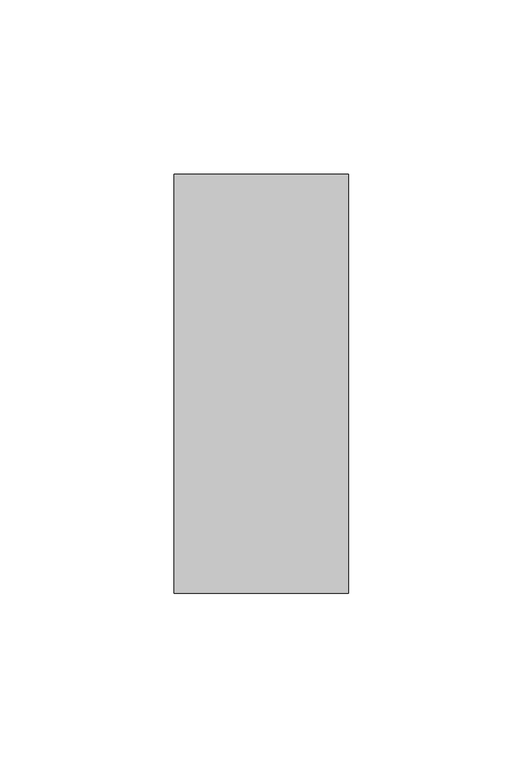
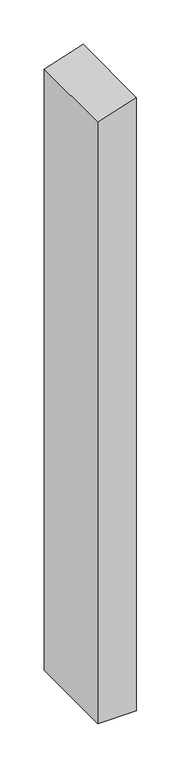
"""IFC4 building model written with IfcOpenShell, lengths in millimetres: member geometry, Прямоугольный импост : 50х120 мм."""

from ifc_helpers import new_model, si_unit, frame, origin, place, context, project, spatial, polyline, outline, extrude, source, transform, mapped, element, save


def member_5c1dcb9d(model_context):
    return source(origin(), model_context, "Body", "SweptSolid", [
        extrude(outline(polyline([(0.0, 0.0), (-16.2459848, -50.0), (-841.151337, -50.0), (-841.151337, 0.0), (0.0, 0.0)])), frame((0.0, -60.0, 0.0), z_axis=(0.0, 1.0, 0.0), x_axis=(0.0, 0.0, 1.0)), (0.0, 0.0, 1.0), 120.0),
    ])


if __name__ == "__main__":
    model = new_model("IFC4")
    model_context = context("Model", 3, world=origin())
    ifc_project = project(units=[si_unit("LENGTHUNIT", "METRE", prefix="MILLI")], contexts=[model_context])
    site = spatial("IfcSite", under=ifc_project)
    building = spatial("IfcBuilding", under=site)
    placement = place(None, origin())
    member_shape = member_5c1dcb9d(model_context)
    element("IfcMember", 1, ObjectType="Прямоугольный импост : 50х120 мм", at=placement, inside=building, context=model_context, shape_type="MappedRepresentation", body=[
        mapped(member_shape, transform((0.0, 0.0, 0.0), x_axis=(1.0, 0.0, 0.0), y_axis=(0.0, 1.0, 0.0), z_axis=(0.0, 0.0, 1.0))),
    ])
    save(model, "model.ifc")
